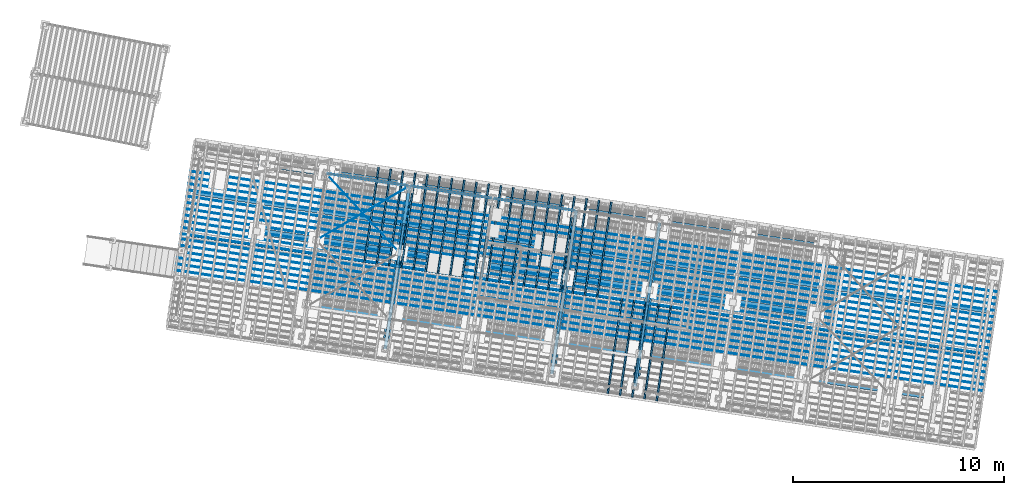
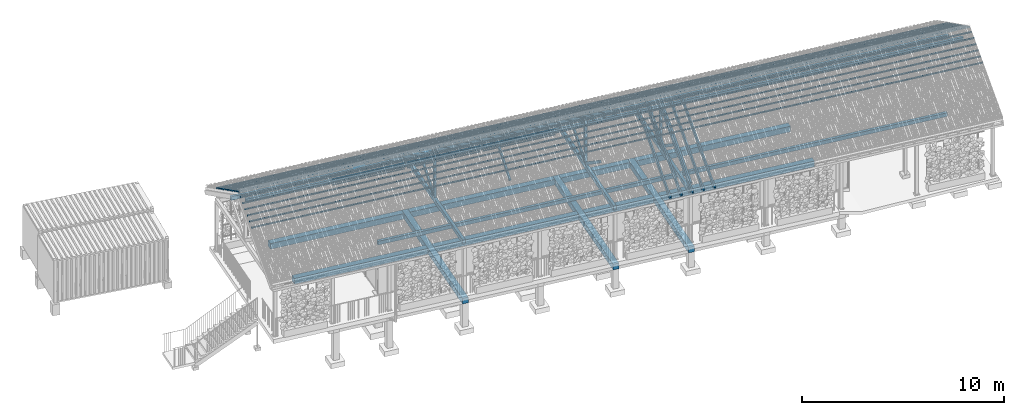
# One storey, part 80 of 131: 63 members, 11 beams, 2 elements without a shape of their own.
"""IFC4 building model written with IfcOpenShell, lengths in metres."""

from ifc_helpers import new_model, si_unit, direction, frame, origin_with_axes, place, context, subcontext, project, spatial, polyline, rectangle, outline, extrude, material, material_profile, profile_set, profile_usage, type_object, element, aggregate, save


model = new_model("IFC4")

# Units and contexts
model_context = context("Model", 3, precision=1e-05, world=origin_with_axes(), true_north=direction((0.0, 1.0)))
body_context = subcontext(model_context, "Body", "Model", "MODEL_VIEW")
ifc_project = project(units=[si_unit("AREAUNIT", "SQUARE_METRE"), si_unit("VOLUMEUNIT", "CUBIC_METRE"), si_unit("LENGTHUNIT", "METRE")], contexts=[model_context])

# Site, building, storey
site_placement = place(None, origin_with_axes())
site = spatial("IfcSite", under=ifc_project, at=site_placement, Name="Lares · Rua das Mercês · artigo 4771")
building_placement = place(site_placement, frame((15.0, 9.7, 14.65), z_axis=(0.0, 0.0, 1.0), x_axis=(0.989015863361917, -0.147809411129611, 0.0)))
building = spatial("IfcBuilding", under=site, at=building_placement, Name="Casa Sobreposta")
storey_placement = place(building_placement, origin_with_axes())
storey = spatial("IfcBuildingStorey", under=building, at=storey_placement, Name="00 · Habitação e estacionamento", Elevation=14.65)

# Beam
ifc_material_1 = material(Name="Madeira / Bauholz", Category="wood")
ifc_material_profile_1 = material_profile(ifc_material_1, rectangle(XDim=0.16, YDim=0.22))
ifc_profile_set_1 = profile_set([ifc_material_profile_1], Name="TIMBER0.160x0.220")
ifc_profile_usage_1 = profile_usage(ifc_profile_set_1)
beam_type_1 = type_object("IfcBeamType", Name="TIMBER0.160x0.220 / timber", PredefinedType="NOTDEFINED", material=ifc_profile_set_1)
beam_1_placement = place(storey_placement, frame((0.0, 0.12, 3.0), z_axis=(1.0, 0.0, 0.0), x_axis=(0.0, -1.0, 0.0)))
element("IfcBeam", 1, at=beam_1_placement, inside=storey, type_object=beam_type_1, material=ifc_profile_usage_1, Name="Cobertura · frechal longitudinal", context=body_context, shape_type="SweptSolid", body=[
    extrude(rectangle(XDim=0.16, YDim=0.22), origin_with_axes(), (0.0, 0.0, 1.0), 30.22),
])

# Members
ifc_material_2 = material(Name="Aço pintado / Stahl lackiert", Category="steel")
ifc_material_profile_2 = material_profile(ifc_material_2, rectangle(XDim=0.035, YDim=0.035))
ifc_profile_set_2 = profile_set([ifc_material_profile_2], Name="R0.035")
ifc_profile_usage_2 = profile_usage(ifc_profile_set_2)
member_type_1 = type_object("IfcMemberType", Name="R0.035 / steel", PredefinedType="NOTDEFINED", material=ifc_profile_set_2)
member_1_placement = place(storey_placement, frame((0.08, 6.4, 2.35), z_axis=(1.0, 0.0, 0.0), x_axis=(0.0, -1.0, 0.0)))
element("IfcMember", 2, at=member_1_placement, inside=storey, type_object=member_type_1, material=ifc_profile_usage_2, Name="Rasgo norte 1 · travessa", context=body_context, shape_type="SweptSolid", body=[
    extrude(rectangle(XDim=0.035, YDim=0.035), origin_with_axes(), (0.0, 0.0, 1.0), 3.84),
])
ifc_profile_usage_3 = profile_usage(ifc_profile_set_2)
member_2_placement = place(storey_placement, frame((0.08, 6.4, 2.7), z_axis=(1.0, 0.0, 0.0), x_axis=(0.0, -1.0, 0.0)))
element("IfcMember", 3, at=member_2_placement, inside=storey, type_object=member_type_1, material=ifc_profile_usage_3, Name="Rasgo norte 1 · travessa", context=body_context, shape_type="SweptSolid", body=[
    extrude(rectangle(XDim=0.035, YDim=0.035), origin_with_axes(), (0.0, 0.0, 1.0), 3.84),
])
ifc_profile_usage_4 = profile_usage(ifc_profile_set_2)
member_3_placement = place(storey_placement, frame((4.08, 6.4, 2.35), z_axis=(1.0, 0.0, 0.0), x_axis=(0.0, -1.0, 0.0)))
element("IfcMember", 4, at=member_3_placement, inside=storey, type_object=member_type_1, material=ifc_profile_usage_4, Name="Rasgo norte 2 · travessa", context=body_context, shape_type="SweptSolid", body=[
    extrude(rectangle(XDim=0.035, YDim=0.035), origin_with_axes(), (0.0, 0.0, 1.0), 3.84),
])
ifc_profile_usage_5 = profile_usage(ifc_profile_set_2)
member_4_placement = place(storey_placement, frame((4.08, 6.4, 2.7), z_axis=(1.0, 0.0, 0.0), x_axis=(0.0, -1.0, 0.0)))
element("IfcMember", 5, at=member_4_placement, inside=storey, type_object=member_type_1, material=ifc_profile_usage_5, Name="Rasgo norte 2 · travessa", context=body_context, shape_type="SweptSolid", body=[
    extrude(rectangle(XDim=0.035, YDim=0.035), origin_with_axes(), (0.0, 0.0, 1.0), 3.84),
])
ifc_profile_usage_6 = profile_usage(ifc_profile_set_2)
member_5_placement = place(storey_placement, frame((8.08, 6.4, 2.35), z_axis=(1.0, 0.0, 0.0), x_axis=(0.0, -1.0, 0.0)))
element("IfcMember", 6, at=member_5_placement, inside=storey, type_object=member_type_1, material=ifc_profile_usage_6, Name="Rasgo norte 3 · travessa", context=body_context, shape_type="SweptSolid", body=[
    extrude(rectangle(XDim=0.035, YDim=0.035), origin_with_axes(), (0.0, 0.0, 1.0), 3.84),
])
ifc_profile_usage_7 = profile_usage(ifc_profile_set_2)
member_6_placement = place(storey_placement, frame((8.08, 6.4, 2.7), z_axis=(1.0, 0.0, 0.0), x_axis=(0.0, -1.0, 0.0)))
element("IfcMember", 7, at=member_6_placement, inside=storey, type_object=member_type_1, material=ifc_profile_usage_7, Name="Rasgo norte 3 · travessa", context=body_context, shape_type="SweptSolid", body=[
    extrude(rectangle(XDim=0.035, YDim=0.035), origin_with_axes(), (0.0, 0.0, 1.0), 3.84),
])

# Roof, beams, members
roof_placement = place(storey_placement, origin_with_axes())
roof = element("IfcRoof", 8, at=roof_placement, inside=storey, material=ifc_material_1, Name="Cobertura de telha · duas águas 30 graus", PredefinedType="GABLE_ROOF")
ifc_material_profile_3 = material_profile(ifc_material_1, rectangle(XDim=0.16, YDim=0.24))
ifc_profile_set_3 = profile_set([ifc_material_profile_3], Name="TIMBER0.160x0.240")
ifc_profile_usage_8 = profile_usage(ifc_profile_set_3)
beam_type_2 = type_object("IfcBeamType", Name="TIMBER0.160x0.240 / timber", PredefinedType="NOTDEFINED", material=ifc_profile_set_3)
beam_2_placement = place(roof_placement, frame((4.0, -1.43, 3.02), z_axis=(0.0, 1.0, 0.0), x_axis=(1.0, 0.0, 0.0)))
beam_2 = element("IfcBeam", 9, at=beam_2_placement, type_object=beam_type_2, material=ifc_profile_usage_8, Name="Tesoura · tirante inferior", context=body_context, shape_type="SweptSolid", body=[
    extrude(rectangle(XDim=0.16, YDim=0.24), origin_with_axes(), (0.0, 0.0, 1.0), 7.86),
])
ifc_profile_usage_9 = profile_usage(ifc_profile_set_3)
beam_3_placement = place(roof_placement, frame((12.0, -1.43, 3.02), z_axis=(0.0, 1.0, 0.0), x_axis=(1.0, 0.0, 0.0)))
beam_3 = element("IfcBeam", 10, at=beam_3_placement, type_object=beam_type_2, material=ifc_profile_usage_9, Name="Tesoura · tirante inferior", context=body_context, shape_type="SweptSolid", body=[
    extrude(rectangle(XDim=0.16, YDim=0.24), origin_with_axes(), (0.0, 0.0, 1.0), 7.86),
])
ifc_profile_usage_10 = profile_usage(ifc_profile_set_3)
beam_4_placement = place(roof_placement, frame((16.0, -1.43, 3.02), z_axis=(0.0, 1.0, 0.0), x_axis=(1.0, 0.0, 0.0)))
beam_4 = element("IfcBeam", 11, at=beam_4_placement, type_object=beam_type_2, material=ifc_profile_usage_10, Name="Tesoura · tirante inferior", context=body_context, shape_type="SweptSolid", body=[
    extrude(rectangle(XDim=0.16, YDim=0.24), origin_with_axes(), (0.0, 0.0, 1.0), 7.86),
])
ifc_material_profile_4 = material_profile(ifc_material_1, rectangle(XDim=0.16, YDim=0.24))
ifc_profile_set_4 = profile_set([ifc_material_profile_4], Name="TIMBER0.160x0.240")
ifc_profile_usage_11 = profile_usage(ifc_profile_set_4)
member_type_2 = type_object("IfcMemberType", Name="TIMBER0.160x0.240 / timber", PredefinedType="NOTDEFINED", material=ifc_profile_set_4)
member_7_placement = place(roof_placement, frame((4.0, 2.55, 5.74420869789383), z_axis=(0.0, 0.866025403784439, -0.5), x_axis=(1.0, 0.0, 0.0)))
member_7 = element("IfcMember", 12, at=member_7_placement, type_object=member_type_2, material=ifc_profile_usage_11, Name="Tesoura · perna", context=body_context, shape_type="SweptSolid", body=[
    extrude(rectangle(XDim=0.16, YDim=0.24), origin_with_axes(), (0.0, 0.0, 1.0), 4.4802380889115),
])
ifc_profile_usage_12 = profile_usage(ifc_profile_set_4)
member_8_placement = place(roof_placement, frame((8.0, 2.55, 5.74420869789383), z_axis=(0.0, 0.866025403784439, -0.5), x_axis=(1.0, 0.0, 0.0)))
member_8 = element("IfcMember", 13, at=member_8_placement, type_object=member_type_2, material=ifc_profile_usage_12, Name="Tesoura · perna", context=body_context, shape_type="SweptSolid", body=[
    extrude(rectangle(XDim=0.16, YDim=0.24), origin_with_axes(), (0.0, 0.0, 1.0), 4.4802380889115),
])
ifc_profile_usage_13 = profile_usage(ifc_profile_set_4)
member_9_placement = place(roof_placement, frame((12.0, 2.55, 5.74420869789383), z_axis=(0.0, 0.866025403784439, -0.5), x_axis=(1.0, 0.0, 0.0)))
member_9 = element("IfcMember", 14, at=member_9_placement, type_object=member_type_2, material=ifc_profile_usage_13, Name="Tesoura · perna", context=body_context, shape_type="SweptSolid", body=[
    extrude(rectangle(XDim=0.16, YDim=0.24), origin_with_axes(), (0.0, 0.0, 1.0), 4.4802380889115),
])
ifc_profile_usage_14 = profile_usage(ifc_profile_set_4)
member_10_placement = place(roof_placement, frame((16.0, -1.43, 3.44635462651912), z_axis=(0.0, 0.866025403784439, 0.5), x_axis=(1.0, 0.0, 0.0)))
member_10 = element("IfcMember", 15, at=member_10_placement, type_object=member_type_2, material=ifc_profile_usage_14, Name="Tesoura · perna", context=body_context, shape_type="SweptSolid", body=[
    extrude(rectangle(XDim=0.16, YDim=0.24), origin_with_axes(), (0.0, 0.0, 1.0), 4.59570814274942),
])
ifc_material_profile_5 = material_profile(ifc_material_1, rectangle(XDim=0.14, YDim=0.14))
ifc_profile_set_5 = profile_set([ifc_material_profile_5], Name="TIMBER0.140x0.140")
ifc_profile_usage_15 = profile_usage(ifc_profile_set_5)
member_type_3 = type_object("IfcMemberType", Name="TIMBER0.140x0.140 / timber", PredefinedType="NOTDEFINED", material=ifc_profile_set_5)
member_11_placement = place(roof_placement, frame((4.0, 2.55, 3.02), z_axis=(0.0, 0.0, 1.0), x_axis=(1.0, 0.0, 0.0)))
member_11 = element("IfcMember", 16, at=member_11_placement, type_object=member_type_3, material=ifc_profile_usage_15, Name="Tesoura · pendural", context=body_context, shape_type="SweptSolid", body=[
    extrude(rectangle(XDim=0.14, YDim=0.14), origin_with_axes(), (0.0, 0.0, 1.0), 2.72420869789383),
])
ifc_profile_usage_16 = profile_usage(ifc_profile_set_5)
member_12_placement = place(roof_placement, frame((12.0, 2.55, 3.02), z_axis=(0.0, 0.0, 1.0), x_axis=(1.0, 0.0, 0.0)))
member_12 = element("IfcMember", 17, at=member_12_placement, type_object=member_type_3, material=ifc_profile_usage_16, Name="Tesoura · pendural", context=body_context, shape_type="SweptSolid", body=[
    extrude(rectangle(XDim=0.14, YDim=0.14), origin_with_axes(), (0.0, 0.0, 1.0), 2.72420869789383),
])
ifc_profile_usage_17 = profile_usage(ifc_profile_set_5)
member_13_placement = place(roof_placement, frame((16.0, 2.55, 3.02), z_axis=(0.0, 0.0, 1.0), x_axis=(1.0, 0.0, 0.0)))
member_13 = element("IfcMember", 18, at=member_13_placement, type_object=member_type_3, material=ifc_profile_usage_17, Name="Tesoura · pendural", context=body_context, shape_type="SweptSolid", body=[
    extrude(rectangle(XDim=0.14, YDim=0.14), origin_with_axes(), (0.0, 0.0, 1.0), 2.72420869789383),
])
ifc_material_profile_6 = material_profile(ifc_material_1, rectangle(XDim=0.1, YDim=0.16))
ifc_profile_set_6 = profile_set([ifc_material_profile_6], Name="TIMBER0.100x0.160")
ifc_profile_usage_18 = profile_usage(ifc_profile_set_6)
member_type_4 = type_object("IfcMemberType", Name="TIMBER0.100x0.160 / timber", PredefinedType="NOTDEFINED", material=ifc_profile_set_6)
member_14_placement = place(roof_placement, frame((4.0, 2.55, 3.1), z_axis=(0.0, 0.816439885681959, 0.577430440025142), x_axis=(1.0, 0.0, 0.0)))
member_14 = element("IfcMember", 19, at=member_14_placement, type_object=member_type_4, material=ifc_profile_usage_18, Name="Tesoura · escora", context=body_context, shape_type="SweptSolid", body=[
    extrude(rectangle(XDim=0.1, YDim=0.16), origin_with_axes(), (0.0, 0.0, 1.0), 2.44965984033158),
])
ifc_profile_usage_19 = profile_usage(ifc_profile_set_6)
member_15_placement = place(roof_placement, frame((8.0, 2.55, 3.1), z_axis=(0.0, 0.816439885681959, 0.577430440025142), x_axis=(1.0, 0.0, 0.0)))
member_15 = element("IfcMember", 20, at=member_15_placement, type_object=member_type_4, material=ifc_profile_usage_19, Name="Tesoura · escora", context=body_context, shape_type="SweptSolid", body=[
    extrude(rectangle(XDim=0.1, YDim=0.16), origin_with_axes(), (0.0, 0.0, 1.0), 2.44965984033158),
])
ifc_profile_usage_20 = profile_usage(ifc_profile_set_6)
member_16_placement = place(roof_placement, frame((12.0, 2.55, 3.1), z_axis=(0.0, -0.816439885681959, 0.577430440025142), x_axis=(-1.0, 0.0, 0.0)))
member_16 = element("IfcMember", 21, at=member_16_placement, type_object=member_type_4, material=ifc_profile_usage_20, Name="Tesoura · escora", context=body_context, shape_type="SweptSolid", body=[
    extrude(rectangle(XDim=0.1, YDim=0.16), origin_with_axes(), (0.0, 0.0, 1.0), 2.44965984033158),
])
ifc_profile_usage_21 = profile_usage(ifc_profile_set_6)
member_17_placement = place(roof_placement, frame((12.0, 2.55, 3.1), z_axis=(0.0, 0.816439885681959, 0.577430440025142), x_axis=(1.0, 0.0, 0.0)))
member_17 = element("IfcMember", 22, at=member_17_placement, type_object=member_type_4, material=ifc_profile_usage_21, Name="Tesoura · escora", context=body_context, shape_type="SweptSolid", body=[
    extrude(rectangle(XDim=0.1, YDim=0.16), origin_with_axes(), (0.0, 0.0, 1.0), 2.44965984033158),
])
ifc_profile_usage_22 = profile_usage(ifc_profile_set_6)
member_18_placement = place(roof_placement, frame((16.0, 2.55, 3.1), z_axis=(0.0, -0.816439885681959, 0.577430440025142), x_axis=(-1.0, 0.0, 0.0)))
member_18 = element("IfcMember", 23, at=member_18_placement, type_object=member_type_4, material=ifc_profile_usage_22, Name="Tesoura · escora", context=body_context, shape_type="SweptSolid", body=[
    extrude(rectangle(XDim=0.1, YDim=0.16), origin_with_axes(), (0.0, 0.0, 1.0), 2.44965984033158),
])
ifc_profile_usage_23 = profile_usage(ifc_profile_set_6)
member_19_placement = place(roof_placement, frame((16.0, 2.55, 3.1), z_axis=(0.0, 0.816439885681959, 0.577430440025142), x_axis=(1.0, 0.0, 0.0)))
member_19 = element("IfcMember", 24, at=member_19_placement, type_object=member_type_4, material=ifc_profile_usage_23, Name="Tesoura · escora", context=body_context, shape_type="SweptSolid", body=[
    extrude(rectangle(XDim=0.1, YDim=0.16), origin_with_axes(), (0.0, 0.0, 1.0), 2.44965984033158),
])
ifc_material_profile_7 = material_profile(ifc_material_1, rectangle(XDim=0.08, YDim=0.24))
ifc_profile_set_7 = profile_set([ifc_material_profile_7], Name="TIMBER0.080x0.240")
ifc_profile_usage_24 = profile_usage(ifc_profile_set_7)
member_type_5 = type_object("IfcMemberType", Name="TIMBER0.080x0.240 / timber", PredefinedType="NOTDEFINED", material=ifc_profile_set_7)
member_20_placement = place(roof_placement, frame((2.41818181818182, 2.55, 5.75020869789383), z_axis=(0.0, 0.866025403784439, -0.5), x_axis=(1.0, 0.0, 0.0)))
member_20 = element("IfcMember", 25, at=member_20_placement, type_object=member_type_5, material=ifc_profile_usage_24, Name="Cobertura · caibro", context=body_context, shape_type="SweptSolid", body=[
    extrude(rectangle(XDim=0.08, YDim=0.24), origin_with_axes(), (0.0, 0.0, 1.0), 5.13841739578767),
])
ifc_profile_usage_25 = profile_usage(ifc_profile_set_7)
member_21_placement = place(roof_placement, frame((3.00606060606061, 2.55, 5.75020869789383), z_axis=(0.0, 0.866025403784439, -0.5), x_axis=(1.0, 0.0, 0.0)))
member_21 = element("IfcMember", 26, at=member_21_placement, type_object=member_type_5, material=ifc_profile_usage_25, Name="Cobertura · caibro", context=body_context, shape_type="SweptSolid", body=[
    extrude(rectangle(XDim=0.08, YDim=0.24), origin_with_axes(), (0.0, 0.0, 1.0), 5.13841739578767),
])
ifc_profile_usage_26 = profile_usage(ifc_profile_set_7)
member_22_placement = place(roof_placement, frame((3.59393939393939, 2.55, 5.75020869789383), z_axis=(0.0, 0.866025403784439, -0.5), x_axis=(1.0, 0.0, 0.0)))
member_22 = element("IfcMember", 27, at=member_22_placement, type_object=member_type_5, material=ifc_profile_usage_26, Name="Cobertura · caibro", context=body_context, shape_type="SweptSolid", body=[
    extrude(rectangle(XDim=0.08, YDim=0.24), origin_with_axes(), (0.0, 0.0, 1.0), 5.13841739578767),
])
ifc_profile_usage_27 = profile_usage(ifc_profile_set_7)
member_23_placement = place(roof_placement, frame((4.18181818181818, 2.55, 5.75020869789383), z_axis=(0.0, 0.866025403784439, -0.5), x_axis=(1.0, 0.0, 0.0)))
member_23 = element("IfcMember", 28, at=member_23_placement, type_object=member_type_5, material=ifc_profile_usage_27, Name="Cobertura · caibro", context=body_context, shape_type="SweptSolid", body=[
    extrude(rectangle(XDim=0.08, YDim=0.24), origin_with_axes(), (0.0, 0.0, 1.0), 5.13841739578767),
])
ifc_profile_usage_28 = profile_usage(ifc_profile_set_7)
member_24_placement = place(roof_placement, frame((4.76969696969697, 2.55, 5.75020869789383), z_axis=(0.0, 0.866025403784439, -0.5), x_axis=(1.0, 0.0, 0.0)))
member_24 = element("IfcMember", 29, at=member_24_placement, type_object=member_type_5, material=ifc_profile_usage_28, Name="Cobertura · caibro", context=body_context, shape_type="SweptSolid", body=[
    extrude(rectangle(XDim=0.08, YDim=0.24), origin_with_axes(), (0.0, 0.0, 1.0), 5.13841739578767),
])
ifc_profile_usage_29 = profile_usage(ifc_profile_set_7)
member_25_placement = place(roof_placement, frame((5.35757575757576, 2.55, 5.75020869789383), z_axis=(0.0, 0.866025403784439, -0.5), x_axis=(1.0, 0.0, 0.0)))
member_25 = element("IfcMember", 30, at=member_25_placement, type_object=member_type_5, material=ifc_profile_usage_29, Name="Cobertura · caibro", context=body_context, shape_type="SweptSolid", body=[
    extrude(rectangle(XDim=0.08, YDim=0.24), origin_with_axes(), (0.0, 0.0, 1.0), 5.13841739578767),
])
ifc_profile_usage_30 = profile_usage(ifc_profile_set_7)
member_26_placement = place(roof_placement, frame((5.94545454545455, 2.55, 5.75020869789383), z_axis=(0.0, 0.866025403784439, -0.5), x_axis=(1.0, 0.0, 0.0)))
member_26 = element("IfcMember", 31, at=member_26_placement, type_object=member_type_5, material=ifc_profile_usage_30, Name="Cobertura · caibro", context=body_context, shape_type="SweptSolid", body=[
    extrude(rectangle(XDim=0.08, YDim=0.24), origin_with_axes(), (0.0, 0.0, 1.0), 5.13841739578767),
])
ifc_profile_usage_31 = profile_usage(ifc_profile_set_7)
member_27_placement = place(roof_placement, frame((6.53333333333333, 2.55, 5.75020869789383), z_axis=(0.0, 0.866025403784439, -0.5), x_axis=(1.0, 0.0, 0.0)))
member_27 = element("IfcMember", 32, at=member_27_placement, type_object=member_type_5, material=ifc_profile_usage_31, Name="Cobertura · caibro", context=body_context, shape_type="SweptSolid", body=[
    extrude(rectangle(XDim=0.08, YDim=0.24), origin_with_axes(), (0.0, 0.0, 1.0), 5.13841739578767),
])
ifc_profile_usage_32 = profile_usage(ifc_profile_set_7)
member_28_placement = place(roof_placement, frame((7.12121212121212, 2.55, 5.75020869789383), z_axis=(0.0, 0.866025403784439, -0.5), x_axis=(1.0, 0.0, 0.0)))
member_28 = element("IfcMember", 33, at=member_28_placement, type_object=member_type_5, material=ifc_profile_usage_32, Name="Cobertura · caibro", context=body_context, shape_type="SweptSolid", body=[
    extrude(rectangle(XDim=0.08, YDim=0.24), origin_with_axes(), (0.0, 0.0, 1.0), 5.13841739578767),
])
ifc_profile_usage_33 = profile_usage(ifc_profile_set_7)
member_29_placement = place(roof_placement, frame((7.70909090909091, 2.55, 5.75020869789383), z_axis=(0.0, 0.866025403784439, -0.5), x_axis=(1.0, 0.0, 0.0)))
member_29 = element("IfcMember", 34, at=member_29_placement, type_object=member_type_5, material=ifc_profile_usage_33, Name="Cobertura · caibro", context=body_context, shape_type="SweptSolid", body=[
    extrude(rectangle(XDim=0.08, YDim=0.24), origin_with_axes(), (0.0, 0.0, 1.0), 5.13841739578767),
])
ifc_profile_usage_34 = profile_usage(ifc_profile_set_7)
member_30_placement = place(roof_placement, frame((8.2969696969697, 2.55, 5.75020869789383), z_axis=(0.0, 0.866025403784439, -0.5), x_axis=(1.0, 0.0, 0.0)))
member_30 = element("IfcMember", 35, at=member_30_placement, type_object=member_type_5, material=ifc_profile_usage_34, Name="Cobertura · caibro", context=body_context, shape_type="SweptSolid", body=[
    extrude(rectangle(XDim=0.08, YDim=0.24), origin_with_axes(), (0.0, 0.0, 1.0), 5.13841739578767),
])
ifc_profile_usage_35 = profile_usage(ifc_profile_set_7)
member_31_placement = place(roof_placement, frame((8.88484848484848, 2.55, 5.75020869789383), z_axis=(0.0, 0.866025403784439, -0.5), x_axis=(1.0, 0.0, 0.0)))
member_31 = element("IfcMember", 36, at=member_31_placement, type_object=member_type_5, material=ifc_profile_usage_35, Name="Cobertura · caibro", context=body_context, shape_type="SweptSolid", body=[
    extrude(rectangle(XDim=0.08, YDim=0.24), origin_with_axes(), (0.0, 0.0, 1.0), 5.13841739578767),
])
ifc_profile_usage_36 = profile_usage(ifc_profile_set_7)
member_32_placement = place(roof_placement, frame((9.47272727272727, 2.55, 5.75020869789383), z_axis=(0.0, 0.866025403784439, -0.5), x_axis=(1.0, 0.0, 0.0)))
member_32 = element("IfcMember", 37, at=member_32_placement, type_object=member_type_5, material=ifc_profile_usage_36, Name="Cobertura · caibro", context=body_context, shape_type="SweptSolid", body=[
    extrude(rectangle(XDim=0.08, YDim=0.24), origin_with_axes(), (0.0, 0.0, 1.0), 5.13841739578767),
])
ifc_profile_usage_37 = profile_usage(ifc_profile_set_7)
member_33_placement = place(roof_placement, frame((10.0606060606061, 2.55, 5.75020869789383), z_axis=(0.0, 0.866025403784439, -0.5), x_axis=(1.0, 0.0, 0.0)))
member_33 = element("IfcMember", 38, at=member_33_placement, type_object=member_type_5, material=ifc_profile_usage_37, Name="Cobertura · caibro", context=body_context, shape_type="SweptSolid", body=[
    extrude(rectangle(XDim=0.08, YDim=0.24), origin_with_axes(), (0.0, 0.0, 1.0), 5.13841739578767),
])
ifc_profile_usage_38 = profile_usage(ifc_profile_set_7)
member_34_placement = place(roof_placement, frame((10.6484848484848, 2.55, 5.75020869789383), z_axis=(0.0, 0.866025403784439, -0.5), x_axis=(1.0, 0.0, 0.0)))
member_34 = element("IfcMember", 39, at=member_34_placement, type_object=member_type_5, material=ifc_profile_usage_38, Name="Cobertura · caibro", context=body_context, shape_type="SweptSolid", body=[
    extrude(rectangle(XDim=0.08, YDim=0.24), origin_with_axes(), (0.0, 0.0, 1.0), 5.13841739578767),
])
ifc_profile_usage_39 = profile_usage(ifc_profile_set_7)
member_35_placement = place(roof_placement, frame((11.2363636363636, 2.55, 5.75020869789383), z_axis=(0.0, 0.866025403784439, -0.5), x_axis=(1.0, 0.0, 0.0)))
member_35 = element("IfcMember", 40, at=member_35_placement, type_object=member_type_5, material=ifc_profile_usage_39, Name="Cobertura · caibro", context=body_context, shape_type="SweptSolid", body=[
    extrude(rectangle(XDim=0.08, YDim=0.24), origin_with_axes(), (0.0, 0.0, 1.0), 5.13841739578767),
])
ifc_profile_usage_40 = profile_usage(ifc_profile_set_7)
member_36_placement = place(roof_placement, frame((11.8242424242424, 2.55, 5.75020869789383), z_axis=(0.0, 0.866025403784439, -0.5), x_axis=(1.0, 0.0, 0.0)))
member_36 = element("IfcMember", 41, at=member_36_placement, type_object=member_type_5, material=ifc_profile_usage_40, Name="Cobertura · caibro", context=body_context, shape_type="SweptSolid", body=[
    extrude(rectangle(XDim=0.08, YDim=0.24), origin_with_axes(), (0.0, 0.0, 1.0), 5.13841739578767),
])
ifc_profile_usage_41 = profile_usage(ifc_profile_set_7)
member_37_placement = place(roof_placement, frame((12.4121212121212, 2.55, 5.75020869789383), z_axis=(0.0, 0.866025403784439, -0.5), x_axis=(1.0, 0.0, 0.0)))
member_37 = element("IfcMember", 42, at=member_37_placement, type_object=member_type_5, material=ifc_profile_usage_41, Name="Cobertura · caibro", context=body_context, shape_type="SweptSolid", body=[
    extrude(rectangle(XDim=0.08, YDim=0.24), origin_with_axes(), (0.0, 0.0, 1.0), 5.13841739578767),
])
ifc_profile_usage_42 = profile_usage(ifc_profile_set_7)
member_38_placement = place(roof_placement, frame((13.0, 2.55, 5.75020869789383), z_axis=(0.0, 0.866025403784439, -0.5), x_axis=(1.0, 0.0, 0.0)))
member_38 = element("IfcMember", 43, at=member_38_placement, type_object=member_type_5, material=ifc_profile_usage_42, Name="Cobertura · caibro", context=body_context, shape_type="SweptSolid", body=[
    extrude(rectangle(XDim=0.08, YDim=0.24), origin_with_axes(), (0.0, 0.0, 1.0), 5.13841739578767),
])
ifc_profile_usage_43 = profile_usage(ifc_profile_set_7)
member_39_placement = place(roof_placement, frame((13.5878787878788, 2.55, 5.75020869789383), z_axis=(0.0, 0.866025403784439, -0.5), x_axis=(1.0, 0.0, 0.0)))
member_39 = element("IfcMember", 44, at=member_39_placement, type_object=member_type_5, material=ifc_profile_usage_43, Name="Cobertura · caibro", context=body_context, shape_type="SweptSolid", body=[
    extrude(rectangle(XDim=0.08, YDim=0.24), origin_with_axes(), (0.0, 0.0, 1.0), 5.13841739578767),
])
ifc_profile_usage_44 = profile_usage(ifc_profile_set_7)
member_40_placement = place(roof_placement, frame((14.7636363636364, -1.9, 3.181), z_axis=(0.0, 0.866025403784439, 0.5), x_axis=(1.0, 0.0, 0.0)))
member_40 = element("IfcMember", 45, at=member_40_placement, type_object=member_type_5, material=ifc_profile_usage_44, Name="Cobertura · caibro", context=body_context, shape_type="SweptSolid", body=[
    extrude(rectangle(XDim=0.08, YDim=0.24), origin_with_axes(), (0.0, 0.0, 1.0), 5.13841739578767),
])
ifc_profile_usage_45 = profile_usage(ifc_profile_set_7)
member_41_placement = place(roof_placement, frame((15.3515151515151, -1.9, 3.181), z_axis=(0.0, 0.866025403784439, 0.5), x_axis=(1.0, 0.0, 0.0)))
member_41 = element("IfcMember", 46, at=member_41_placement, type_object=member_type_5, material=ifc_profile_usage_45, Name="Cobertura · caibro", context=body_context, shape_type="SweptSolid", body=[
    extrude(rectangle(XDim=0.08, YDim=0.24), origin_with_axes(), (0.0, 0.0, 1.0), 5.13841739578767),
])
ifc_profile_usage_46 = profile_usage(ifc_profile_set_7)
member_42_placement = place(roof_placement, frame((15.9393939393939, -1.9, 3.181), z_axis=(0.0, 0.866025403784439, 0.5), x_axis=(1.0, 0.0, 0.0)))
member_42 = element("IfcMember", 47, at=member_42_placement, type_object=member_type_5, material=ifc_profile_usage_46, Name="Cobertura · caibro", context=body_context, shape_type="SweptSolid", body=[
    extrude(rectangle(XDim=0.08, YDim=0.24), origin_with_axes(), (0.0, 0.0, 1.0), 5.13841739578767),
])
ifc_profile_usage_47 = profile_usage(ifc_profile_set_7)
member_43_placement = place(roof_placement, frame((16.5272727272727, -1.9, 3.181), z_axis=(0.0, 0.866025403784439, 0.5), x_axis=(1.0, 0.0, 0.0)))
member_43 = element("IfcMember", 48, at=member_43_placement, type_object=member_type_5, material=ifc_profile_usage_47, Name="Cobertura · caibro", context=body_context, shape_type="SweptSolid", body=[
    extrude(rectangle(XDim=0.08, YDim=0.24), origin_with_axes(), (0.0, 0.0, 1.0), 5.13841739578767),
])
ifc_profile_usage_48 = profile_usage(ifc_profile_set_7)
member_44_placement = place(roof_placement, frame((17.1151515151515, -1.9, 3.181), z_axis=(0.0, 0.866025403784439, 0.5), x_axis=(1.0, 0.0, 0.0)))
member_44 = element("IfcMember", 49, at=member_44_placement, type_object=member_type_5, material=ifc_profile_usage_48, Name="Cobertura · caibro", context=body_context, shape_type="SweptSolid", body=[
    extrude(rectangle(XDim=0.08, YDim=0.24), origin_with_axes(), (0.0, 0.0, 1.0), 5.13841739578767),
])
ifc_material_profile_8 = material_profile(ifc_material_1, rectangle(XDim=0.14, YDim=0.22))
ifc_profile_set_8 = profile_set([ifc_material_profile_8], Name="TIMBER0.140x0.220")
ifc_profile_usage_49 = profile_usage(ifc_profile_set_8)
beam_type_3 = type_object("IfcBeamType", Name="TIMBER0.140x0.220 / timber", PredefinedType="NOTDEFINED", material=ifc_profile_set_8)
beam_5_placement = place(roof_placement, frame((-6.05, 2.55, 5.49920869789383), z_axis=(1.0, 0.0, 0.0), x_axis=(0.0, -1.0, 0.0)))
beam_5 = element("IfcBeam", 50, at=beam_5_placement, type_object=beam_type_3, material=ifc_profile_usage_49, Name="Cobertura · terça", context=body_context, shape_type="SweptSolid", body=[
    extrude(rectangle(XDim=0.14, YDim=0.22), origin_with_axes(), (0.0, 0.0, 1.0), 38.1),
])
ifc_profile_usage_50 = profile_usage(ifc_profile_set_8)
beam_6_placement = place(roof_placement, frame((-6.05, 4.55, 4.34450815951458), z_axis=(1.0, 0.0, 0.0), x_axis=(0.0, -1.0, 0.0)))
beam_6 = element("IfcBeam", 51, at=beam_6_placement, type_object=beam_type_3, material=ifc_profile_usage_50, Name="Cobertura · terça", context=body_context, shape_type="SweptSolid", body=[
    extrude(rectangle(XDim=0.14, YDim=0.22), origin_with_axes(), (0.0, 0.0, 1.0), 38.1),
])
ifc_material_3 = material(Name="Aço galvanizado / Stahl verzinkt", Category="steel")
ifc_material_profile_9 = material_profile(ifc_material_3, rectangle(XDim=0.025, YDim=0.025))
ifc_profile_set_9 = profile_set([ifc_material_profile_9], Name="R0.025")
ifc_profile_usage_51 = profile_usage(ifc_profile_set_9)
member_type_6 = type_object("IfcMemberType", Name="R0.025 / galvanized", PredefinedType="NOTDEFINED", material=ifc_profile_set_9)
member_45_placement = place(roof_placement, frame((0.0, 3.2, 5.49593102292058), z_axis=(0.734553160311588, 0.58764252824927, -0.339275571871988), x_axis=(0.624695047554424, -0.78086880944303, 0.0)))
member_45 = element("IfcMember", 52, at=member_45_placement, type_object=member_type_6, material=ifc_profile_usage_51, Name="Cobertura · fita de contraventamento", context=body_context, shape_type="SweptSolid", body=[
    extrude(rectangle(XDim=0.025, YDim=0.025), origin_with_axes(), (0.0, 0.0, 1.0), 5.44548742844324),
])
ifc_profile_usage_52 = profile_usage(ifc_profile_set_9)
member_46_placement = place(roof_placement, frame((0.0, 6.4, 3.64841016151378), z_axis=(0.734553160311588, -0.58764252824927, 0.339275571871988), x_axis=(-0.624695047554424, -0.78086880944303, 0.0)))
member_46 = element("IfcMember", 53, at=member_46_placement, type_object=member_type_6, material=ifc_profile_usage_52, Name="Cobertura · fita de contraventamento", context=body_context, shape_type="SweptSolid", body=[
    extrude(rectangle(XDim=0.025, YDim=0.025), origin_with_axes(), (0.0, 0.0, 1.0), 5.44548742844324),
])
ifc_material_profile_10 = material_profile(ifc_material_1, rectangle(XDim=0.045, YDim=0.06))
ifc_profile_set_10 = profile_set([ifc_material_profile_10], Name="TIMBER0.045x0.060")
ifc_profile_usage_53 = profile_usage(ifc_profile_set_10)
member_type_7 = type_object("IfcMemberType", Name="TIMBER0.045x0.060 / timber", PredefinedType="NOTDEFINED", material=ifc_profile_set_10)
member_47_placement = place(roof_placement, frame((-6.4, 0.8, 5.09284572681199), z_axis=(1.0, 0.0, 0.0), x_axis=(0.0, -1.0, 0.0)))
member_47 = element("IfcMember", 54, at=member_47_placement, type_object=member_type_7, material=ifc_profile_usage_53, Name="Cobertura · ripa ventilada", context=body_context, shape_type="SweptSolid", body=[
    extrude(rectangle(XDim=0.045, YDim=0.06), origin_with_axes(), (0.0, 0.0, 1.0), 38.8),
])
ifc_profile_usage_54 = profile_usage(ifc_profile_set_10)
member_48_placement = place(roof_placement, frame((-6.4, 1.1, 5.26605080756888), z_axis=(1.0, 0.0, 0.0), x_axis=(0.0, -1.0, 0.0)))
member_48 = element("IfcMember", 55, at=member_48_placement, type_object=member_type_7, material=ifc_profile_usage_54, Name="Cobertura · ripa ventilada", context=body_context, shape_type="SweptSolid", body=[
    extrude(rectangle(XDim=0.045, YDim=0.06), origin_with_axes(), (0.0, 0.0, 1.0), 38.8),
])
ifc_profile_usage_55 = profile_usage(ifc_profile_set_10)
member_49_placement = place(roof_placement, frame((-6.4, 1.4, 5.43925588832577), z_axis=(1.0, 0.0, 0.0), x_axis=(0.0, -1.0, 0.0)))
member_49 = element("IfcMember", 56, at=member_49_placement, type_object=member_type_7, material=ifc_profile_usage_55, Name="Cobertura · ripa ventilada", context=body_context, shape_type="SweptSolid", body=[
    extrude(rectangle(XDim=0.045, YDim=0.06), origin_with_axes(), (0.0, 0.0, 1.0), 38.8),
])
ifc_profile_usage_56 = profile_usage(ifc_profile_set_10)
member_50_placement = place(roof_placement, frame((-6.4, 1.7, 5.61246096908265), z_axis=(1.0, 0.0, 0.0), x_axis=(0.0, -1.0, 0.0)))
member_50 = element("IfcMember", 57, at=member_50_placement, type_object=member_type_7, material=ifc_profile_usage_56, Name="Cobertura · ripa ventilada", context=body_context, shape_type="SweptSolid", body=[
    extrude(rectangle(XDim=0.045, YDim=0.06), origin_with_axes(), (0.0, 0.0, 1.0), 38.8),
])
ifc_profile_usage_57 = profile_usage(ifc_profile_set_10)
member_51_placement = place(roof_placement, frame((-6.4, 2.0, 5.78566604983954), z_axis=(1.0, 0.0, 0.0), x_axis=(0.0, -1.0, 0.0)))
member_51 = element("IfcMember", 58, at=member_51_placement, type_object=member_type_7, material=ifc_profile_usage_57, Name="Cobertura · ripa ventilada", context=body_context, shape_type="SweptSolid", body=[
    extrude(rectangle(XDim=0.045, YDim=0.06), origin_with_axes(), (0.0, 0.0, 1.0), 38.8),
])
ifc_profile_usage_58 = profile_usage(ifc_profile_set_10)
member_52_placement = place(roof_placement, frame((-6.4, 2.3, 5.95887113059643), z_axis=(1.0, 0.0, 0.0), x_axis=(0.0, -1.0, 0.0)))
member_52 = element("IfcMember", 59, at=member_52_placement, type_object=member_type_7, material=ifc_profile_usage_58, Name="Cobertura · ripa ventilada", context=body_context, shape_type="SweptSolid", body=[
    extrude(rectangle(XDim=0.045, YDim=0.06), origin_with_axes(), (0.0, 0.0, 1.0), 38.8),
])
ifc_profile_usage_59 = profile_usage(ifc_profile_set_10)
member_53_placement = place(roof_placement, frame((-6.4, 2.55, 6.10320869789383), z_axis=(1.0, 0.0, 0.0), x_axis=(0.0, -1.0, 0.0)))
member_53 = element("IfcMember", 60, at=member_53_placement, type_object=member_type_7, material=ifc_profile_usage_59, Name="Cobertura · ripa ventilada", context=body_context, shape_type="SweptSolid", body=[
    extrude(rectangle(XDim=0.045, YDim=0.06), origin_with_axes(), (0.0, 0.0, 1.0), 38.8),
])
ifc_profile_usage_60 = profile_usage(ifc_profile_set_10)
member_54_placement = place(roof_placement, frame((-6.4, 2.85, 5.93000361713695), z_axis=(1.0, 0.0, 0.0), x_axis=(0.0, -1.0, 0.0)))
member_54 = element("IfcMember", 61, at=member_54_placement, type_object=member_type_7, material=ifc_profile_usage_60, Name="Cobertura · ripa ventilada", context=body_context, shape_type="SweptSolid", body=[
    extrude(rectangle(XDim=0.045, YDim=0.06), origin_with_axes(), (0.0, 0.0, 1.0), 38.8),
])
ifc_profile_usage_61 = profile_usage(ifc_profile_set_10)
member_55_placement = place(roof_placement, frame((-6.4, 3.15, 5.75679853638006), z_axis=(1.0, 0.0, 0.0), x_axis=(0.0, -1.0, 0.0)))
member_55 = element("IfcMember", 62, at=member_55_placement, type_object=member_type_7, material=ifc_profile_usage_61, Name="Cobertura · ripa ventilada", context=body_context, shape_type="SweptSolid", body=[
    extrude(rectangle(XDim=0.045, YDim=0.06), origin_with_axes(), (0.0, 0.0, 1.0), 38.8),
])
ifc_profile_usage_62 = profile_usage(ifc_profile_set_10)
member_56_placement = place(roof_placement, frame((-6.4, 3.45, 5.58359345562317), z_axis=(1.0, 0.0, 0.0), x_axis=(0.0, -1.0, 0.0)))
member_56 = element("IfcMember", 63, at=member_56_placement, type_object=member_type_7, material=ifc_profile_usage_62, Name="Cobertura · ripa ventilada", context=body_context, shape_type="SweptSolid", body=[
    extrude(rectangle(XDim=0.045, YDim=0.06), origin_with_axes(), (0.0, 0.0, 1.0), 38.8),
])
ifc_profile_usage_63 = profile_usage(ifc_profile_set_10)
member_57_placement = place(roof_placement, frame((-6.4, 3.75, 5.41038837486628), z_axis=(1.0, 0.0, 0.0), x_axis=(0.0, -1.0, 0.0)))
member_57 = element("IfcMember", 64, at=member_57_placement, type_object=member_type_7, material=ifc_profile_usage_63, Name="Cobertura · ripa ventilada", context=body_context, shape_type="SweptSolid", body=[
    extrude(rectangle(XDim=0.045, YDim=0.06), origin_with_axes(), (0.0, 0.0, 1.0), 38.8),
])
ifc_profile_usage_64 = profile_usage(ifc_profile_set_10)
member_58_placement = place(roof_placement, frame((-6.4, 4.05, 5.2371832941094), z_axis=(1.0, 0.0, 0.0), x_axis=(0.0, -1.0, 0.0)))
member_58 = element("IfcMember", 65, at=member_58_placement, type_object=member_type_7, material=ifc_profile_usage_64, Name="Cobertura · ripa ventilada", context=body_context, shape_type="SweptSolid", body=[
    extrude(rectangle(XDim=0.045, YDim=0.06), origin_with_axes(), (0.0, 0.0, 1.0), 38.8),
])
ifc_profile_usage_65 = profile_usage(ifc_profile_set_10)
member_59_placement = place(roof_placement, frame((-6.4, 4.35, 5.06397821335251), z_axis=(1.0, 0.0, 0.0), x_axis=(0.0, -1.0, 0.0)))
member_59 = element("IfcMember", 66, at=member_59_placement, type_object=member_type_7, material=ifc_profile_usage_65, Name="Cobertura · ripa ventilada", context=body_context, shape_type="SweptSolid", body=[
    extrude(rectangle(XDim=0.045, YDim=0.06), origin_with_axes(), (0.0, 0.0, 1.0), 38.8),
])
ifc_profile_usage_66 = profile_usage(ifc_profile_set_10)
member_60_placement = place(roof_placement, frame((-6.4, 4.65, 4.89077313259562), z_axis=(1.0, 0.0, 0.0), x_axis=(0.0, -1.0, 0.0)))
member_60 = element("IfcMember", 67, at=member_60_placement, type_object=member_type_7, material=ifc_profile_usage_66, Name="Cobertura · ripa ventilada", context=body_context, shape_type="SweptSolid", body=[
    extrude(rectangle(XDim=0.045, YDim=0.06), origin_with_axes(), (0.0, 0.0, 1.0), 38.8),
])
ifc_profile_usage_67 = profile_usage(ifc_profile_set_10)
member_61_placement = place(roof_placement, frame((-6.4, 4.95, 4.71756805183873), z_axis=(1.0, 0.0, 0.0), x_axis=(0.0, -1.0, 0.0)))
member_61 = element("IfcMember", 68, at=member_61_placement, type_object=member_type_7, material=ifc_profile_usage_67, Name="Cobertura · ripa ventilada", context=body_context, shape_type="SweptSolid", body=[
    extrude(rectangle(XDim=0.045, YDim=0.06), origin_with_axes(), (0.0, 0.0, 1.0), 38.8),
])
ifc_profile_usage_68 = profile_usage(ifc_profile_set_10)
member_62_placement = place(roof_placement, frame((-6.4, 5.25, 4.54436297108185), z_axis=(1.0, 0.0, 0.0), x_axis=(0.0, -1.0, 0.0)))
member_62 = element("IfcMember", 69, at=member_62_placement, type_object=member_type_7, material=ifc_profile_usage_68, Name="Cobertura · ripa ventilada", context=body_context, shape_type="SweptSolid", body=[
    extrude(rectangle(XDim=0.045, YDim=0.06), origin_with_axes(), (0.0, 0.0, 1.0), 38.8),
])
ifc_profile_usage_69 = profile_usage(ifc_profile_set_10)
member_63_placement = place(roof_placement, frame((-6.4, 5.55, 4.37115789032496), z_axis=(1.0, 0.0, 0.0), x_axis=(0.0, -1.0, 0.0)))
member_63 = element("IfcMember", 70, at=member_63_placement, type_object=member_type_7, material=ifc_profile_usage_69, Name="Cobertura · ripa ventilada", context=body_context, shape_type="SweptSolid", body=[
    extrude(rectangle(XDim=0.045, YDim=0.06), origin_with_axes(), (0.0, 0.0, 1.0), 38.8),
])
aggregate(roof, [beam_2, member_7, member_11, member_14, member_8, member_15, beam_3, member_9, member_12, member_16, member_17, beam_4, member_10, member_13, member_18, member_19, member_20, member_21, member_22, member_23, member_24, member_25, member_26, member_27, member_28, member_29, member_30, member_31, member_32, member_33, member_34, member_35, member_36, member_37, member_38, member_39, member_40, member_41, member_42, member_43, member_44, beam_5, beam_6, member_45, member_46, member_47, member_48, member_49, member_50, member_51, member_52, member_53, member_54, member_55, member_56, member_57, member_58, member_59, member_60, member_61, member_62, member_63])

# Assembly, beams
assembly_placement = place(storey_placement, origin_with_axes())
assembly = element("IfcElementAssembly", 71, at=assembly_placement, inside=storey, Name="Pódio · terraço, casa térrea e cisterna", ObjectType="CISTERN_PODIUM", PredefinedType="USERDEFINED")
ifc_material_4 = material(Name="Betão armado / Stahlbeton", Category="concrete")
beam_7_placement = place(assembly_placement, frame((0.0, 0.0, -0.59), z_axis=(0.0, 0.0, 1.0), x_axis=(1.0, 0.0, 0.0)))
beam_7 = element("IfcBeam", 72, at=beam_7_placement, material=ifc_material_4, Name="Pódio suspenso · viga transversal", context=body_context, shape_type="SweptSolid", body=[
    extrude(outline(polyline([(4.16, -1.59), (4.16, 6.59), (3.84, 6.59), (3.84, -1.59), (4.16, -1.59)])), origin_with_axes(), (0.0, 0.0, 1.0), 0.34),
])
beam_8_placement = place(assembly_placement, frame((0.0, 0.0, -0.59), z_axis=(0.0, 0.0, 1.0), x_axis=(1.0, 0.0, 0.0)))
beam_8 = element("IfcBeam", 73, at=beam_8_placement, material=ifc_material_4, Name="Pódio suspenso · viga transversal", context=body_context, shape_type="SweptSolid", body=[
    extrude(outline(polyline([(12.16, -1.59), (12.16, 6.59), (11.84, 6.59), (11.84, -1.59), (12.16, -1.59)])), origin_with_axes(), (0.0, 0.0, 1.0), 0.34),
])
beam_9_placement = place(assembly_placement, frame((0.0, 0.0, -0.59), z_axis=(0.0, 0.0, 1.0), x_axis=(1.0, 0.0, 0.0)))
beam_9 = element("IfcBeam", 74, at=beam_9_placement, material=ifc_material_4, Name="Pódio suspenso · viga transversal", context=body_context, shape_type="SweptSolid", body=[
    extrude(outline(polyline([(16.16, -1.59), (16.16, 6.59), (15.84, 6.59), (15.84, -1.59), (16.16, -1.59)])), origin_with_axes(), (0.0, 0.0, 1.0), 0.34),
])
beam_10_placement = place(assembly_placement, frame((0.0, 0.0, -0.59), z_axis=(0.0, 0.0, 1.0), x_axis=(1.0, 0.0, 0.0)))
beam_10 = element("IfcBeam", 75, at=beam_10_placement, material=ifc_material_4, Name="Pódio suspenso · viga longitudinal", context=body_context, shape_type="SweptSolid", body=[
    extrude(outline(polyline([(24.36, 3.04), (24.36, 3.36), (-3.25, 3.36), (-3.25, 3.04), (24.36, 3.04)])), origin_with_axes(), (0.0, 0.0, 1.0), 0.34),
])
beam_11_placement = place(assembly_placement, frame((0.0, 0.0, -0.59), z_axis=(0.0, 0.0, 1.0), x_axis=(1.0, 0.0, 0.0)))
beam_11 = element("IfcBeam", 76, at=beam_11_placement, material=ifc_material_4, Name="Pódio suspenso · viga longitudinal", context=body_context, shape_type="SweptSolid", body=[
    extrude(outline(polyline([(24.36, 6.27), (24.36, 6.59), (-3.25, 6.59), (-3.25, 6.27), (24.36, 6.27)])), origin_with_axes(), (0.0, 0.0, 1.0), 0.34),
])
aggregate(assembly, [beam_7, beam_8, beam_9, beam_10, beam_11])

save(model, "model.ifc")
